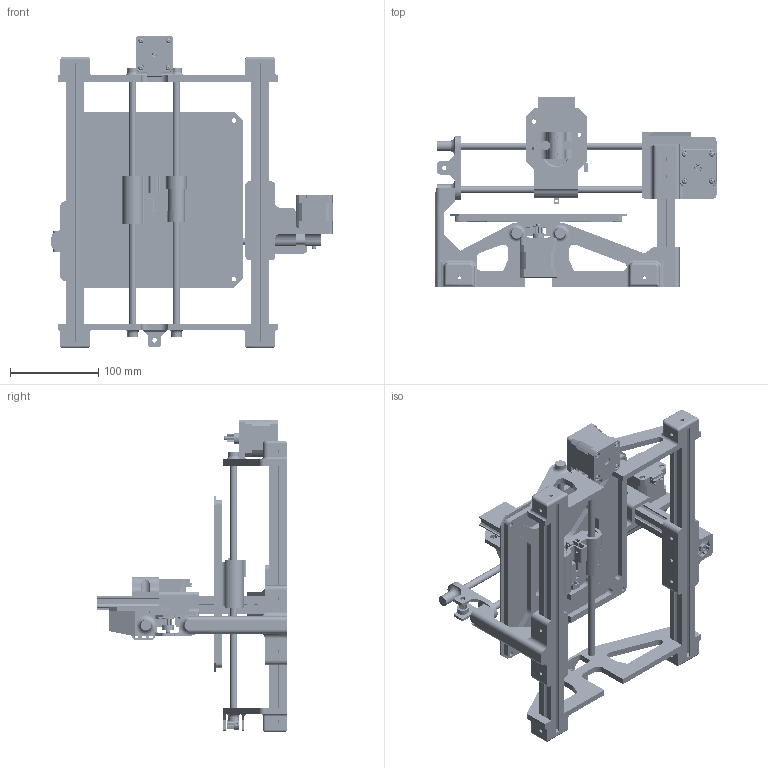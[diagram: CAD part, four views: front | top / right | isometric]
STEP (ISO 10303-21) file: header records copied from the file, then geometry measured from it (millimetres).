
FILE_DESCRIPTION (( 'STEP AP214' ), '1' );
FILE_NAME ('TheMachine_Assembly.STEP', '2025-04-22T07:23:56', ( '' ), ( '' ), 'SwSTEP 2.0', 'SolidWorks 2024', '' );
FILE_SCHEMA (( 'AUTOMOTIVE_DESIGN' ));
Length unit declared in the file: millimetre
Products named in the file (26): 02_Base_PulleyMount; D_Linear_Bearing-LM8UU; 19_X-Axis_LimitSwitchMount; 16_Z-Axis_RackSlider; 06_20x20x160mm_V-SlotProfile; 09_X-Axis_AxialCarriage; 13_X-Axis_BedMount; 07_Y-Axis_GantryMount; 21_Y-Axis_VerticalSupportAid; 20_Z-Axis_Gear; 14_X-Axis_Bed_MDF; 11_AxialCarriage_LinearBearingCover; 05_PerpendicularProfileJoint; 04_8x300mm_SmoothRod; 15_Y-Axis_ToolheadMount; 12_AxialCarriage_AdjustableBeltClamp; 03_20x20x317mm_V-SlotProfile; D_SG90ServoMotor; 18_Y-Axis_LimitSwitchMount; 10_Y-Axis_AxialCarriage; 17_Z-Axis_ToolClamp; 01_Base_MotorMount; 08_Y-Axis_PulleyMount; TheMachine_Assembly; D_17HS4401S_Stepper_Motor; D_16_teeth_pulley_GT2_6mm_ASSEMBLY_PART_По умолчанию
Assembly tree (40 placements, depth 2):
  TheMachine_Assembly
    01_Base_MotorMount
    02_Base_PulleyMount
    03_20x20x317mm_V-SlotProfile  x2
    04_8x300mm_SmoothRod  x4
    05_PerpendicularProfileJoint
    06_20x20x160mm_V-SlotProfile
    07_Y-Axis_GantryMount
    08_Y-Axis_PulleyMount
    09_X-Axis_AxialCarriage
    10_Y-Axis_AxialCarriage
    11_AxialCarriage_LinearBearingCover  x2
    12_AxialCarriage_AdjustableBeltClamp  x2
    13_X-Axis_BedMount
    14_X-Axis_Bed_MDF
    15_Y-Axis_ToolheadMount
    16_Z-Axis_RackSlider
    17_Z-Axis_ToolClamp
    18_Y-Axis_LimitSwitchMount
    19_X-Axis_LimitSwitchMount
    20_Z-Axis_Gear
    D_SG90ServoMotor
    D_17HS4401S_Stepper_Motor  x2
    D_16_teeth_pulley_GT2_6mm_ASSEMBLY_PART_По умолчанию  x4
    D_Linear_Bearing-LM8UU  x6
    21_Y-Axis_VerticalSupportAid
Bounding box: 319 x 215.43 x 354.8 mm (x, y, z)
Volume: 1170255.1 mm3; surface area: 643968.1 mm2
Topology: 69 solids, 85 shells, 5887 faces, 15507 edges, 9945 vertices
Faces by surface type: cylinder 2906, plane 2431, cone 338, torus 89, bspline 67, sphere 56
Entity records: 127734 total; most frequent: CARTESIAN_POINT 33126, DIRECTION 19752, ORIENTED_EDGE 19494, EDGE_CURVE 9876, AXIS2_PLACEMENT_3D 6918, VERTEX_POINT 6463, VECTOR 5916, LINE 5916
